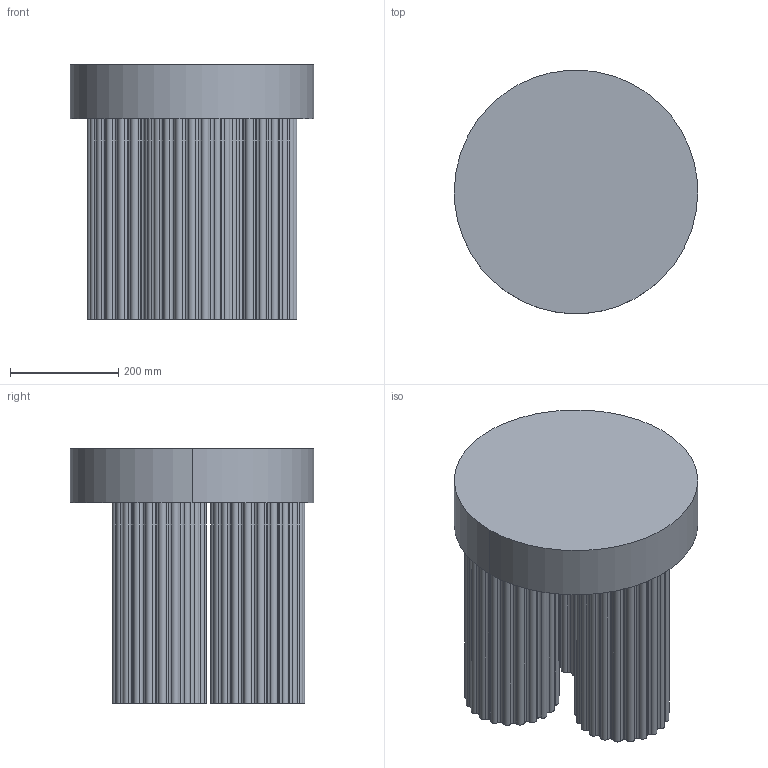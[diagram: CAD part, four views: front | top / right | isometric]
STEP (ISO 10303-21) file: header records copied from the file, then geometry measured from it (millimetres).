
FILE_DESCRIPTION(/* description */ (''),/* implementation_level */ '2;1');
FILE_NAME(/* name */ 'Gear Coffee Table Tall',/* time_stamp */ '2019-12-11T18:48:38+01:00',/* author */ (''),/* organization */ (''),/* preprocessor_version */ 'ST-DEVELOPER v15',/* originating_system */ '',/* authorisation */ '');
FILE_SCHEMA (('AUTOMOTIVE_DESIGN'));
Length unit declared in the file: millimetre
Products named in the file (1): Document
Bounding box: 450 x 449.52 x 470.17 mm (x, y, z)
Volume: 15936523.7 mm3; surface area: 1178321.1 mm2
Topology: 1 solids, 4 shells, 256 faces, 762 edges, 508 vertices
Faces by surface type: bspline 254, plane 2
Entity records: 7692 total; most frequent: CARTESIAN_POINT 4589, ORIENTED_EDGE 1020, EDGE_CURVE 762, VERTEX_POINT 508, ADVANCED_FACE 256, FACE_OUTER_BOUND 256, EDGE_LOOP 256, DIRECTION 8
